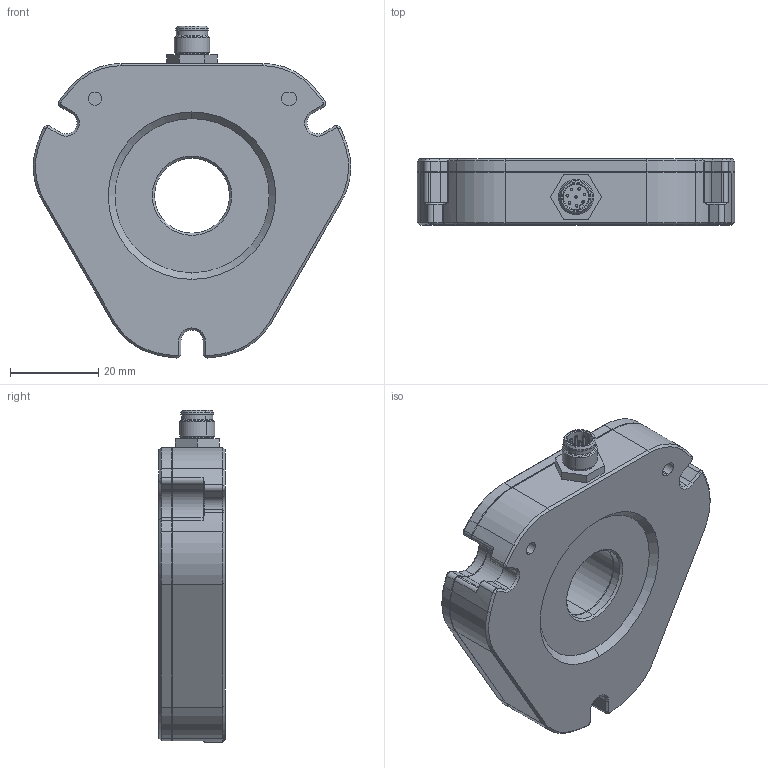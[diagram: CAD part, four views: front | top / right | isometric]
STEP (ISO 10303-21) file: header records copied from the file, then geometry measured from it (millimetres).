
FILE_DESCRIPTION (( 'STEP AP214' ), '1' );
FILE_NAME ('RX650_ORBIS_BR20_connector.STEP', '2024-08-29T13:51:23', ( '' ), ( '' ), 'SwSTEP 2.0', 'SolidWorks 2022', '' );
FILE_SCHEMA (( 'AUTOMOTIVE_DESIGN' ));
Length unit declared in the file: millimetre
Products named in the file (1): RX650_ORBIS_BR20_connector
Bounding box: 72.06 x 15 x 75.33 mm (x, y, z)
Volume: 48351.2 mm3; surface area: 13132.6 mm2
Topology: 8 solids, 8 shells, 1168 faces, 2868 edges, 1763 vertices
Faces by surface type: plane 392, cylinder 285, cone 241, bspline 226, torus 24
Entity records: 53184 total; most frequent: CARTESIAN_POINT 13675, ORIENTED_EDGE 5688, DIRECTION 5247, EDGE_CURVE 2844, AXIS2_PLACEMENT_3D 1913, VERTEX_POINT 1763, LINE 1421, VECTOR 1421
